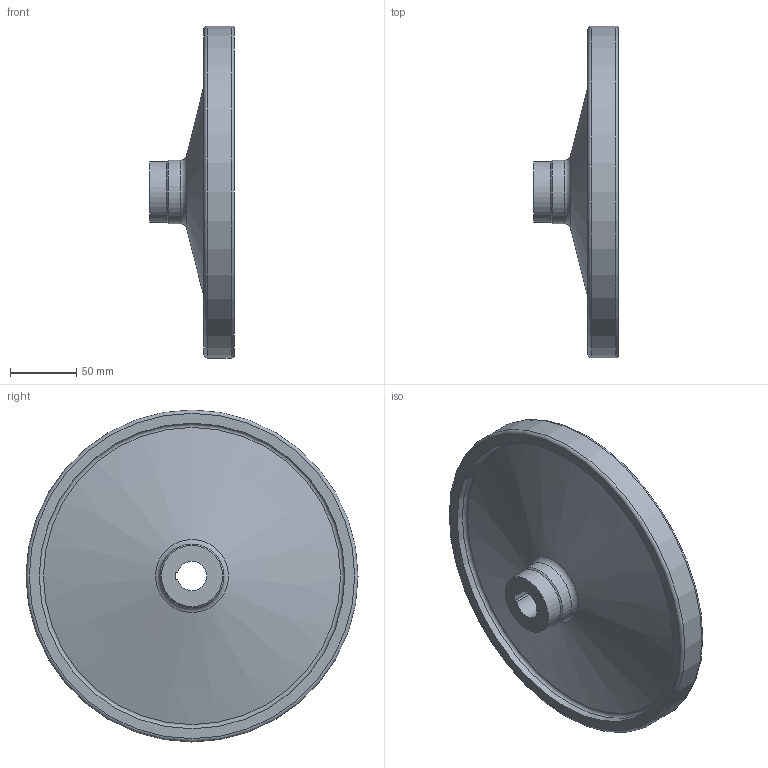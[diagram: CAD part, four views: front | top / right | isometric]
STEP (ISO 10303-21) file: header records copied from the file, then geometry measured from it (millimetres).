
FILE_DESCRIPTION( ( 'STEP AP203' ), '1' );
FILE_NAME( 'C:/Temp/Ganter_Step_05_03_2020/data/1_3/gn_321_5/gn_321_5_a/gn_321_5_a_zi/Safety handwheel GN 321.5-250-K22-A-ZI.stp', '2020-03-05T10:42:39', ( 'License CC BY-ND 4.0' ), ( 'CADENAS' ), ' ', 'PARTsolutions', ' ' );
FILE_SCHEMA( ( 'CONFIG_CONTROL_DESIGN' ) );
Length unit declared in the file: millimetre
Products named in the file (1): _Safety handwheel GN 321.5-250-K22-A-ZI
Bounding box: 64 x 250 x 250 mm (x, y, z)
Volume: 704699.5 mm3; surface area: 135775.5 mm2
Topology: 1 solids, 1 shells, 24 faces, 46 edges, 27 vertices
Faces by surface type: plane 8, cylinder 7, torus 5, cone 4
Full cylindrical faces by diameter (mm): 46 x2, 48 x1, 199 x1, 230 x1, 250 x1
Entity records: 576 total; most frequent: DIRECTION 102, CARTESIAN_POINT 83, ORIENTED_EDGE 62, AXIS2_PLACEMENT_3D 46, EDGE_LOOP 44, FACE_OUTER_BOUND 35, EDGE_CURVE 31, VERTEX_POINT 27
